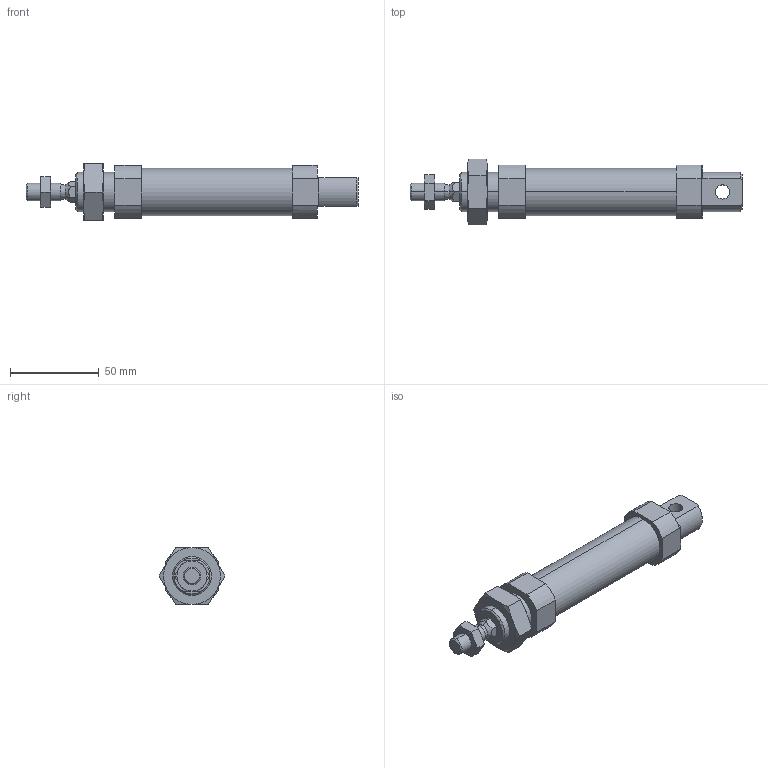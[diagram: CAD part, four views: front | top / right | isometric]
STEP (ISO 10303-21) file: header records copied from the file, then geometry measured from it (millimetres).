
FILE_DESCRIPTION (( 'STEP AP203' ), '1' );
FILE_NAME ('CSMK25-50.STEP', '2020-04-02T10:50:44', ( '' ), ( '' ), 'SwSTEP 2.0', 'SolidWorks 2019', '' );
FILE_SCHEMA (( 'CONFIG_CONTROL_DESIGN' ));
Length unit declared in the file: millimetre
Products named in the file (1): CSMK25-50
Bounding box: 187 x 36.95 x 32 mm (x, y, z)
Volume: 74252.5 mm3; surface area: 31437.4 mm2
Topology: 4 solids, 4 shells, 135 faces, 310 edges, 188 vertices
Faces by surface type: plane 53, cone 50, cylinder 32
Entity records: 4281 total; most frequent: CARTESIAN_POINT 1196, DIRECTION 632, ORIENTED_EDGE 612, EDGE_CURVE 306, AXIS2_PLACEMENT_3D 248, VERTEX_POINT 188, EDGE_LOOP 150, VECTOR 136
